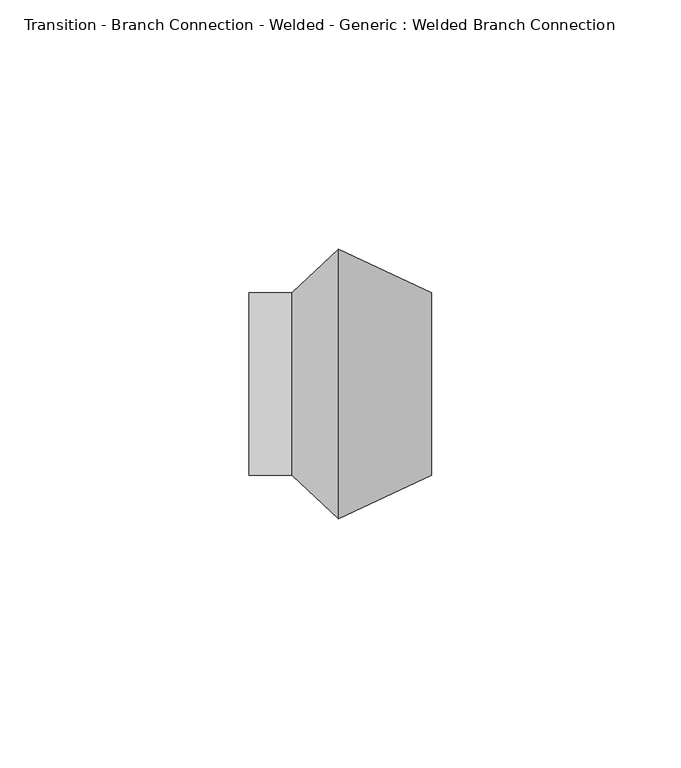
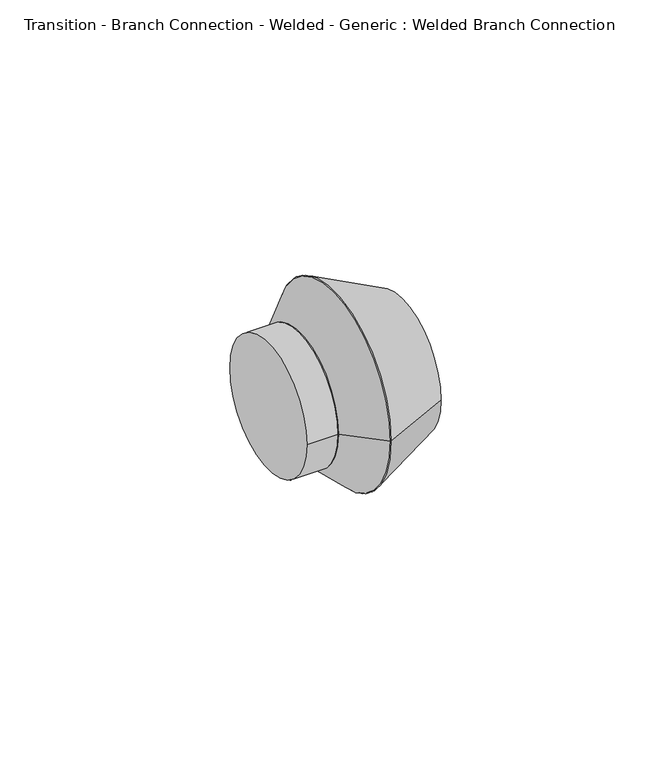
"""IFC4 building model written with IfcOpenShell, lengths in millimetres: pipe fitting geometry, Transition - Branch Connection - Welded - Generic : Welded Branch Connection."""

from ifc_helpers import new_model, si_unit, point, frame, origin, origin_2d, place, context, project, spatial, polyline, circle_curve, trimmed, segment, composite_curve, outline, extrude, source, transform, mapped, element, save
from ifc_brep_helpers import plane_surface, revolved_surface, advanced_brep


def transition_branch_connection_welded_generic_welded_branch_1f094303(model_context):
    return source(origin(), model_context, "Body", "SolidModel", [
        advanced_brep(
        [(9.3302396, 26.9875, 0.0), (9.3302396, -26.9875, 0.0), (27.9907188, 18.25625, 0.0), (27.9907188, -18.25625, 0.0)],
        [
            (0, 1, circle_curve(frame((9.3302396, 0.0, 0.0), z_axis=(-1.0, 0.0, 0.0), x_axis=(0.0, -1.0, 0.0)), 26.9875)),
            (1, 0, circle_curve(frame((9.3302396, 0.0, 0.0), z_axis=(-1.0, 0.0, 0.0), x_axis=(0.0, 1.0, 0.0)), 26.9875)),
            (2, 3, circle_curve(frame((27.9907188, 0.0, 0.0), z_axis=(1.0, 0.0, 0.0), x_axis=(0.0, 1.0, 0.0)), 18.25625)),
            (3, 2, circle_curve(frame((27.9907188, 0.0, 0.0), z_axis=(1.0, 0.0, 0.0), x_axis=(0.0, -1.0, 0.0)), 18.25625)),
            (3, 1),
            (0, 2),
        ],
        [
            plane_surface(frame((9.3302396, 0.0, 0.0), z_axis=(-1.0, 0.0, 0.0), x_axis=(0.0, 0.0, -1.0))),
            plane_surface(frame((27.9907188, 0.0, 0.0), z_axis=(1.0, 0.0, 0.0), x_axis=(0.0, 0.0, -1.0))),
            revolved_surface(polyline([(27.990718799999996, -18.25625001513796, 0.0), (9.330239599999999, -26.9875, 0.0)]), (67.0080845, 0.0, 0.0), (-1.0, 0.0, 0.0)),
            revolved_surface(polyline([(27.990718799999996, 18.25625001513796, 0.0), (9.330239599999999, 26.9875, 0.0)]), (67.0080845, 0.0, 0.0), (-1.0, 0.0, 0.0)),
        ],
        [
            (0, [[1, 2]]),
            (1, [[3, 4]]),
            (2, [[5, -1, 6, -4]]),
            (3, [[-6, -2, -5, -3]]),
        ],
    ),
        advanced_brep(
        [(9.3302396, 26.9875, 0.0), (9.3302396, -26.9875, 0.0), (0.0, 18.25625, 0.0), (0.0, -18.25625, 0.0)],
        [
            (0, 1, circle_curve(frame((9.3302396, 0.0, 0.0), z_axis=(1.0, 0.0, 0.0), x_axis=(0.0, -1.0, 0.0)), 26.9875)),
            (1, 0, circle_curve(frame((9.3302396, 0.0, 0.0), z_axis=(1.0, 0.0, 0.0), x_axis=(0.0, 1.0, 0.0)), 26.9875)),
            (2, 3, circle_curve(frame((0.0, 0.0, 0.0), z_axis=(-1.0, 0.0, 0.0), x_axis=(0.0, 1.0, 0.0)), 18.25625)),
            (3, 2, circle_curve(frame((0.0, 0.0, 0.0), z_axis=(-1.0, 0.0, 0.0), x_axis=(0.0, -1.0, 0.0)), 18.25625)),
            (2, 0),
            (1, 3),
        ],
        [
            plane_surface(frame((9.3302396, 0.0, 0.0), z_axis=(1.0, 0.0, 0.0), x_axis=(0.0, 0.0, -1.0))),
            plane_surface(frame((0.0, 0.0, 0.0), z_axis=(-1.0, 0.0, 0.0), x_axis=(0.0, 0.0, -1.0))),
            revolved_surface(polyline([(0.0, 18.256249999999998, 0.0), (9.330239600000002, 26.9875, 0.0)]), (-19.5086828, 0.0, 0.0), (1.0, 0.0, 0.0)),
            revolved_surface(polyline([(0.0, -18.256249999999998, 0.0), (9.330239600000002, -26.9875, 0.0)]), (-19.5086828, 0.0, 0.0), (1.0, 0.0, 0.0)),
        ],
        [
            (0, [[1, 2]]),
            (1, [[3, 4]]),
            (2, [[5, -2, 6, -3]]),
            (3, [[-6, -1, -5, -4]]),
        ],
    ),
        extrude(outline(composite_curve([segment(trimmed(circle_curve(origin_2d(), 18.25625), [point((18.25625, 0.0))], [point((-18.25625, 0.0))], False, "CARTESIAN"), True, "CONTINUOUS"), segment(trimmed(circle_curve(origin_2d(), 18.25625), [point((-18.25625, 0.0))], [point((18.25625, 0.0))], False, "CARTESIAN"), True, "CONTINUOUS")], self_intersect=False)), frame((-8.6195954, 0.0, 0.0), z_axis=(1.0, 0.0, 0.0), x_axis=(0.0, 1.0, 0.0)), (0.0, 0.0, 1.0), 8.6195954),
    ])


if __name__ == "__main__":
    model = new_model("IFC4")
    model_context = context("Model", 3, world=origin())
    ifc_project = project(units=[si_unit("LENGTHUNIT", "METRE", prefix="MILLI")], contexts=[model_context])
    site = spatial("IfcSite", under=ifc_project)
    building = spatial("IfcBuilding", under=site)
    placement = place(None, origin())
    transition_branch_connection_welded_generic_welded_branch_shape = transition_branch_connection_welded_generic_welded_branch_1f094303(model_context)
    element("IfcPipeFitting", 1, ObjectType="Transition - Branch Connection - Welded - Generic : Welded Branch Connection", at=placement, inside=building, context=model_context, shape_type="MappedRepresentation", body=[
        mapped(transition_branch_connection_welded_generic_welded_branch_shape, transform((0.0, 0.0, 0.0), x_axis=(1.0, 0.0, 0.0), y_axis=(0.0, 1.0, 0.0), z_axis=(0.0, 0.0, 1.0))),
    ])
    save(model, "model.ifc")
